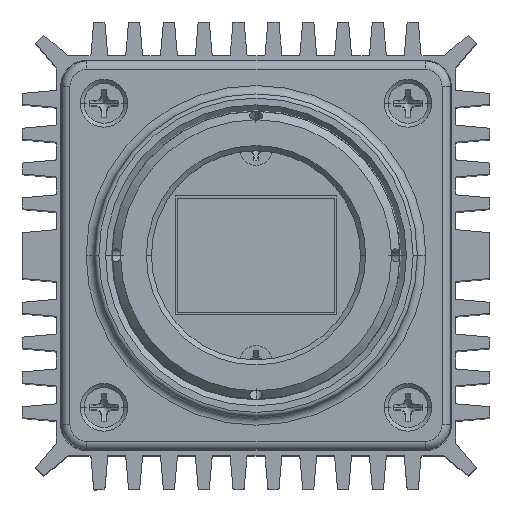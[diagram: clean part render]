
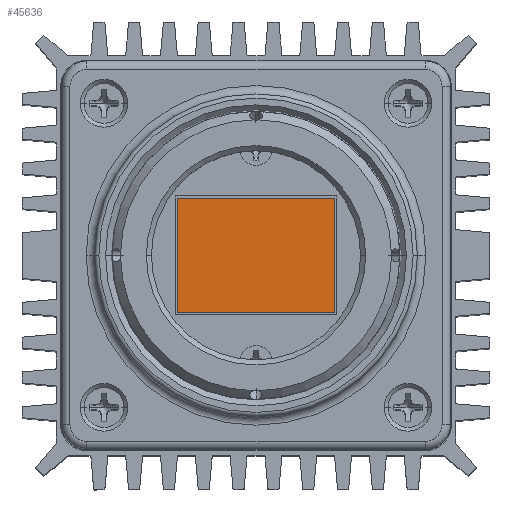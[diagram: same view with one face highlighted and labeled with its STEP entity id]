
A CAD part, top view. The second image highlights one B-rep face of the part: STEP entity #45636.
In plain terms, the highlighted planar face has unit normal (0, 0, 1).
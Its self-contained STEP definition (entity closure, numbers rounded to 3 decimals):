
#65611 = CARTESIAN_POINT ( 'NONE',  ( -11., -8.5, 1. ) ) ;
#17496 = EDGE_CURVE ( 'NONE', #8451, #6170, #9833, .T. ) ;
#50650 = EDGE_CURVE ( 'NONE', #9737, #8451, #25546, .T. ) ;
#19514 = EDGE_CURVE ( 'NONE', #6170, #9359, #15263, .T. ) ;
#52861 = LINE ( 'NONE', #52862, #52863 ) ;
#52862 = CARTESIAN_POINT ( 'NONE',  ( -11., 8.5, 1. ) ) ;
#52863 = VECTOR ( 'NONE', #52864, 1000. ) ;
#52864 = DIRECTION ( 'NONE',  ( 0., -1., 0. ) ) ;
#20194 = ORIENTED_EDGE ( 'NONE', *, *, #32511, .T. ) ;
#20569 = ORIENTED_EDGE ( 'NONE', *, *, #50650, .T. ) ;
#20870 = ORIENTED_EDGE ( 'NONE', *, *, #17496, .T. ) ;
#21244 = ORIENTED_EDGE ( 'NONE', *, *, #19514, .T. ) ;
#6170 = VERTEX_POINT ( 'NONE', #55330 ) ;
#55330 = CARTESIAN_POINT ( 'NONE',  ( 11., 8.5, 1. ) ) ;
#8451 = VERTEX_POINT ( 'NONE', #62010 ) ;
#25546 = LINE ( 'NONE', #25547, #25548 ) ;
#25547 = CARTESIAN_POINT ( 'NONE',  ( -11., -8.5, 1. ) ) ;
#25548 = VECTOR ( 'NONE', #25549, 1000. ) ;
#25549 = DIRECTION ( 'NONE',  ( 1., 0., 0. ) ) ;
#9359 = VERTEX_POINT ( 'NONE', #64625 ) ;
#9737 = VERTEX_POINT ( 'NONE', #65611 ) ;
#9833 = LINE ( 'NONE', #9834, #9835 ) ;
#9834 = CARTESIAN_POINT ( 'NONE',  ( 11., 8.5, 1. ) ) ;
#9835 = VECTOR ( 'NONE', #9836, 1000. ) ;
#9836 = DIRECTION ( 'NONE',  ( 0., 1., 0. ) ) ;
#11206 = FACE_OUTER_BOUND ( 'NONE', #30427, .T. ) ;
#11207 = PLANE ( 'NONE',  #11208 ) ;
#11208 = AXIS2_PLACEMENT_3D ( 'NONE', #11209, #11210, #11211 ) ;
#11209 = CARTESIAN_POINT ( 'NONE',  ( -11., -8.5, 1. ) ) ;
#11210 = DIRECTION ( 'NONE',  ( 0., 0., 1. ) ) ;
#11211 = DIRECTION ( 'NONE',  ( 1., 0., 0. ) ) ;
#62010 = CARTESIAN_POINT ( 'NONE',  ( 11., -8.5, 1. ) ) ;
#45636 = ADVANCED_FACE ( 'NONE', ( #11206 ), #11207, .T. ) ;
#30427 = EDGE_LOOP ( 'NONE', ( #20194, #20569, #20870, #21244 ) ) ;
#15263 = LINE ( 'NONE', #15326, #15327 ) ;
#15326 = CARTESIAN_POINT ( 'NONE',  ( -11., 8.5, 1. ) ) ;
#15327 = VECTOR ( 'NONE', #15328, 1000. ) ;
#15328 = DIRECTION ( 'NONE',  ( -1., 0., 0. ) ) ;
#64625 = CARTESIAN_POINT ( 'NONE',  ( -11., 8.5, 1. ) ) ;
#32511 = EDGE_CURVE ( 'NONE', #9359, #9737, #52861, .T. ) ;
